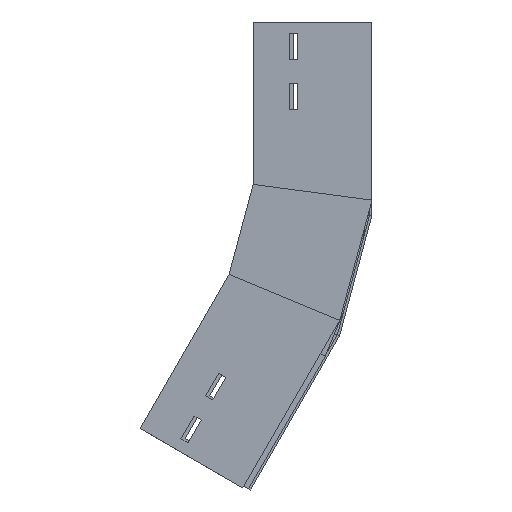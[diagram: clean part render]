
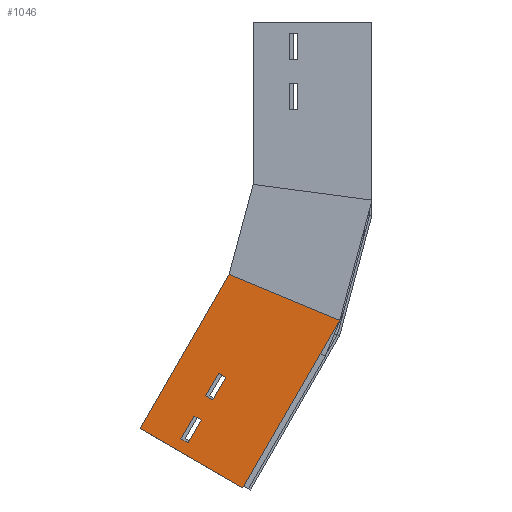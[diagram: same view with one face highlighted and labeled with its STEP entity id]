
A CAD part, left-side view. The second image highlights one B-rep face of the part: STEP entity #1046.
In plain terms, the highlighted planar face has unit normal (-1, 0, 0) as drawn and (1, 0, 0) by its records, which use the part's own axes.
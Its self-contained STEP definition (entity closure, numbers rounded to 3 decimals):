
#12 = DIRECTION ( 'NONE',  ( 0., -1., 0. ) ) ;
#13 = CARTESIAN_POINT ( 'NONE',  ( 0., 0., -163. ) ) ;
#15 = EDGE_CURVE ( 'NONE', #849, #212, #858, .T. ) ;
#35 = CARTESIAN_POINT ( 'NONE',  ( 0., 66., -51.505 ) ) ;
#48 = CARTESIAN_POINT ( 'NONE',  ( 0., 59., -9.835 ) ) ;
#58 = EDGE_CURVE ( 'NONE', #1445, #579, #870, .T. ) ;
#74 = CARTESIAN_POINT ( 'NONE',  ( 0., 21.094, -160.223 ) ) ;
#85 = DIRECTION ( 'NONE',  ( -1., 0., 0. ) ) ;
#126 = LINE ( 'NONE', #1051, #324 ) ;
#182 = CARTESIAN_POINT ( 'NONE',  ( 0., 100., -149.835 ) ) ;
#188 = CARTESIAN_POINT ( 'NONE',  ( 0., 66., -31.835 ) ) ;
#199 = EDGE_CURVE ( 'NONE', #1445, #238, #1296, .T. ) ;
#205 = ORIENTED_EDGE ( 'NONE', *, *, #828, .T. ) ;
#206 = EDGE_CURVE ( 'NONE', #444, #1439, #126, .T. ) ;
#207 = AXIS2_PLACEMENT_3D ( 'NONE', #1367, #85, #215 ) ;
#212 = VERTEX_POINT ( 'NONE', #806 ) ;
#215 = DIRECTION ( 'NONE',  ( 0., 0., 1. ) ) ;
#238 = VERTEX_POINT ( 'NONE', #13 ) ;
#266 = VECTOR ( 'NONE', #550, 1000. ) ;
#280 = DIRECTION ( 'NONE',  ( 0., 1., 0. ) ) ;
#311 = LINE ( 'NONE', #969, #584 ) ;
#324 = VECTOR ( 'NONE', #1389, 1000. ) ;
#338 = CARTESIAN_POINT ( 'NONE',  ( 0., 100., 0. ) ) ;
#374 = ORIENTED_EDGE ( 'NONE', *, *, #1279, .F. ) ;
#378 = CARTESIAN_POINT ( 'NONE',  ( 0., 59., -51.505 ) ) ;
#395 = LINE ( 'NONE', #1185, #533 ) ;
#431 = DIRECTION ( 'NONE',  ( 0., 0., -1. ) ) ;
#434 = ORIENTED_EDGE ( 'NONE', *, *, #15, .T. ) ;
#444 = VERTEX_POINT ( 'NONE', #188 ) ;
#449 = EDGE_CURVE ( 'NONE', #212, #996, #311, .T. ) ;
#477 = CARTESIAN_POINT ( 'NONE',  ( 0., 0., 0. ) ) ;
#485 = VECTOR ( 'NONE', #974, 1000. ) ;
#498 = EDGE_CURVE ( 'NONE', #1167, #603, #1336, .T. ) ;
#506 = EDGE_LOOP ( 'NONE', ( #434, #1234, #205, #1416 ) ) ;
#531 = CARTESIAN_POINT ( 'NONE',  ( 0., 59., -51.505 ) ) ;
#533 = VECTOR ( 'NONE', #1291, 1000. ) ;
#550 = DIRECTION ( 'NONE',  ( 0., -0.991, -0.131 ) ) ;
#560 = DIRECTION ( 'NONE',  ( 0., 0., -1. ) ) ;
#572 = ORIENTED_EDGE ( 'NONE', *, *, #58, .F. ) ;
#579 = VERTEX_POINT ( 'NONE', #338 ) ;
#584 = VECTOR ( 'NONE', #431, 1000. ) ;
#602 = CARTESIAN_POINT ( 'NONE',  ( 0., 0., 0. ) ) ;
#603 = VERTEX_POINT ( 'NONE', #1488 ) ;
#612 = CARTESIAN_POINT ( 'NONE',  ( 0., 100., 0. ) ) ;
#613 = LINE ( 'NONE', #1419, #1226 ) ;
#630 = ORIENTED_EDGE ( 'NONE', *, *, #952, .F. ) ;
#672 = FACE_BOUND ( 'NONE', #506, .T. ) ;
#710 = ORIENTED_EDGE ( 'NONE', *, *, #498, .T. ) ;
#769 = DIRECTION ( 'NONE',  ( 0., 1., 0. ) ) ;
#806 = CARTESIAN_POINT ( 'NONE',  ( 0., 66., -51.505 ) ) ;
#816 = EDGE_CURVE ( 'NONE', #1439, #1167, #395, .T. ) ;
#828 = EDGE_CURVE ( 'NONE', #996, #1131, #613, .T. ) ;
#849 = VERTEX_POINT ( 'NONE', #378 ) ;
#858 = LINE ( 'NONE', #35, #1152 ) ;
#870 = LINE ( 'NONE', #1290, #962 ) ;
#888 = EDGE_CURVE ( 'NONE', #1131, #849, #1441, .T. ) ;
#920 = EDGE_LOOP ( 'NONE', ( #374, #572, #1020, #630 ) ) ;
#952 = EDGE_CURVE ( 'NONE', #1224, #238, #1108, .T. ) ;
#962 = VECTOR ( 'NONE', #280, 1000. ) ;
#969 = CARTESIAN_POINT ( 'NONE',  ( 0., 66., -51.505 ) ) ;
#974 = DIRECTION ( 'NONE',  ( 0., 0., 1. ) ) ;
#984 = CARTESIAN_POINT ( 'NONE',  ( 0., 59., -73.505 ) ) ;
#996 = VERTEX_POINT ( 'NONE', #1039 ) ;
#1014 = PLANE ( 'NONE',  #207 ) ;
#1020 = ORIENTED_EDGE ( 'NONE', *, *, #199, .T. ) ;
#1028 = ORIENTED_EDGE ( 'NONE', *, *, #1068, .T. ) ;
#1029 = FACE_OUTER_BOUND ( 'NONE', #920, .T. ) ;
#1039 = CARTESIAN_POINT ( 'NONE',  ( 0., 66., -73.505 ) ) ;
#1046 = ADVANCED_FACE ( 'NONE', ( #672, #1029, #1470 ), #1014, .F. ) ;
#1051 = CARTESIAN_POINT ( 'NONE',  ( 0., 66., -31.835 ) ) ;
#1068 = EDGE_CURVE ( 'NONE', #603, #444, #1229, .T. ) ;
#1076 = VECTOR ( 'NONE', #560, 1000. ) ;
#1108 = LINE ( 'NONE', #74, #266 ) ;
#1114 = ORIENTED_EDGE ( 'NONE', *, *, #206, .T. ) ;
#1131 = VERTEX_POINT ( 'NONE', #984 ) ;
#1143 = DIRECTION ( 'NONE',  ( 0., 0., -1. ) ) ;
#1152 = VECTOR ( 'NONE', #1184, 1000. ) ;
#1167 = VERTEX_POINT ( 'NONE', #48 ) ;
#1174 = DIRECTION ( 'NONE',  ( 0., 0., -1. ) ) ;
#1184 = DIRECTION ( 'NONE',  ( 0., 1., 0. ) ) ;
#1185 = CARTESIAN_POINT ( 'NONE',  ( 0., 59., -9.835 ) ) ;
#1224 = VERTEX_POINT ( 'NONE', #182 ) ;
#1226 = VECTOR ( 'NONE', #12, 1000. ) ;
#1229 = LINE ( 'NONE', #1448, #1076 ) ;
#1232 = VECTOR ( 'NONE', #1174, 1000. ) ;
#1234 = ORIENTED_EDGE ( 'NONE', *, *, #449, .T. ) ;
#1245 = CARTESIAN_POINT ( 'NONE',  ( 0., 59., -31.835 ) ) ;
#1272 = VECTOR ( 'NONE', #1143, 1000. ) ;
#1279 = EDGE_CURVE ( 'NONE', #579, #1224, #1287, .T. ) ;
#1287 = LINE ( 'NONE', #612, #1232 ) ;
#1290 = CARTESIAN_POINT ( 'NONE',  ( 0., 0., 0. ) ) ;
#1291 = DIRECTION ( 'NONE',  ( 0., 0., 1. ) ) ;
#1296 = LINE ( 'NONE', #602, #1272 ) ;
#1336 = LINE ( 'NONE', #1428, #1386 ) ;
#1367 = CARTESIAN_POINT ( 'NONE',  ( 0., 0., 0. ) ) ;
#1386 = VECTOR ( 'NONE', #769, 1000. ) ;
#1389 = DIRECTION ( 'NONE',  ( 0., -1., 0. ) ) ;
#1416 = ORIENTED_EDGE ( 'NONE', *, *, #888, .T. ) ;
#1419 = CARTESIAN_POINT ( 'NONE',  ( 0., 66., -73.505 ) ) ;
#1428 = CARTESIAN_POINT ( 'NONE',  ( 0., 66., -9.835 ) ) ;
#1439 = VERTEX_POINT ( 'NONE', #1245 ) ;
#1441 = LINE ( 'NONE', #531, #485 ) ;
#1445 = VERTEX_POINT ( 'NONE', #477 ) ;
#1447 = ORIENTED_EDGE ( 'NONE', *, *, #816, .T. ) ;
#1448 = CARTESIAN_POINT ( 'NONE',  ( 0., 66., -9.835 ) ) ;
#1451 = EDGE_LOOP ( 'NONE', ( #710, #1028, #1114, #1447 ) ) ;
#1470 = FACE_BOUND ( 'NONE', #1451, .T. ) ;
#1488 = CARTESIAN_POINT ( 'NONE',  ( 0., 66., -9.835 ) ) ;
